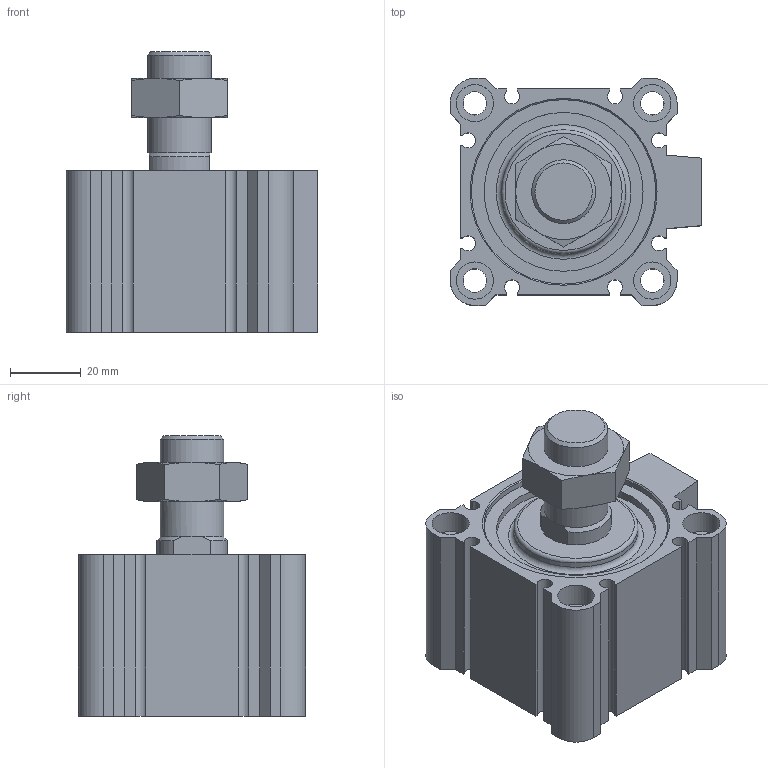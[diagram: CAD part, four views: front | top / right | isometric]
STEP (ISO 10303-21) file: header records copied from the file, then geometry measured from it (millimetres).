
FILE_DESCRIPTION( ( 'STEP AP214' ), '1' );
FILE_NAME( 'C:/Users/emc02044/Desktop/SQN SQN big size/SQN50X5-S-M.stp', '2026-07-29T02:08:59', ( 'License CC BY-ND 4.0' ), ( 'CADENAS' ), ' ', 'PARTsolutions', ' ' );
FILE_SCHEMA( ( 'AUTOMOTIVE_DESIGN { 1 0 10303 214 1 1 1 1 }' ) );
Length unit declared in the file: millimetre
Products named in the file (3): SQN50X5-S-M; _SQ50X5-S(0) ()_body; _SQ50X5-S-M(rod-0)
Assembly tree (2 placements, depth 2):
  SQN50X5-S-M
    _SQ50X5-S(0) ()_body
    _SQ50X5-S-M(rod-0)
Bounding box: 71 x 64 x 79 mm (x, y, z)
Volume: 151278.4 mm3; surface area: 48359.5 mm2
Topology: 2 solids, 2 shells, 159 faces, 360 edges, 232 vertices
Faces by surface type: plane 91, cylinder 44, cone 22, torus 2
Full cylindrical faces by diameter (mm): 6.6 x4, 6.647 x8, 10.5 x8, 11.445 x2, 18 x2, 20 x2, 35 x1, 44.8 x1, 50 x3, 52 x1
Entity records: 5614 total; most frequent: CARTESIAN_POINT 840, DIRECTION 726, ORIENTED_EDGE 628, EDGE_CURVE 314, AXIS2_PLACEMENT_3D 278, EDGE_LOOP 236, VERTEX_POINT 228, FACE_OUTER_BOUND 193
